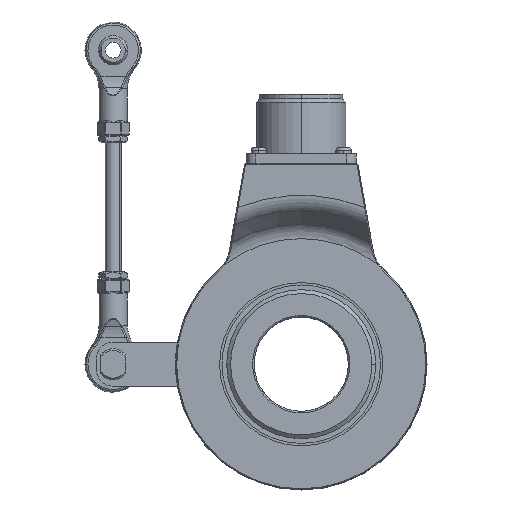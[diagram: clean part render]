
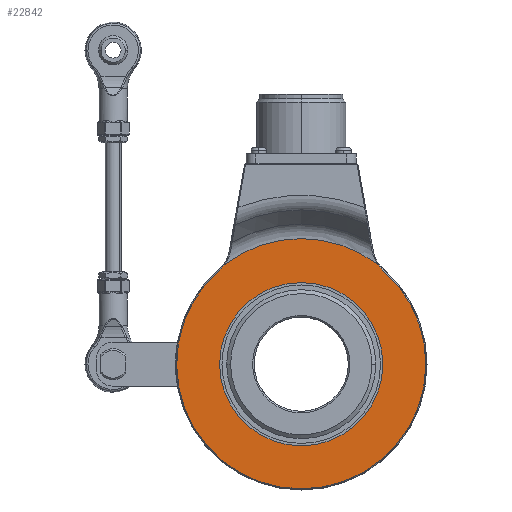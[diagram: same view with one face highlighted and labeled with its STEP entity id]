
A CAD part, left-side view. The second image highlights one B-rep face of the part: STEP entity #22842.
In plain terms, the highlighted planar face has unit normal (-1, 0, 0).
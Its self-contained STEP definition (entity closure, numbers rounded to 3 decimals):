
#265 = CARTESIAN_POINT ( 'NONE',  ( -26., 0., -26. ) ) ;
#274 = EDGE_CURVE ( 'NONE', #24904, #16589, #3939, .T. ) ;
#402 = VERTEX_POINT ( 'NONE', #5622 ) ;
#904 = ORIENTED_EDGE ( 'NONE', *, *, #274, .F. ) ;
#1744 = CIRCLE ( 'NONE', #17648, 26. ) ;
#2135 = EDGE_CURVE ( 'NONE', #28399, #22817, #19011, .T. ) ;
#2147 = PLANE ( 'NONE',  #23688 ) ;
#2227 = DIRECTION ( 'NONE',  ( -1., 0., 0. ) ) ;
#2318 = CIRCLE ( 'NONE', #8290, 40. ) ;
#2457 = CARTESIAN_POINT ( 'NONE',  ( -26., 0., 0. ) ) ;
#3420 = CARTESIAN_POINT ( 'NONE',  ( -26., 0., 0. ) ) ;
#3828 = AXIS2_PLACEMENT_3D ( 'NONE', #10108, #26817, #14627 ) ;
#3939 = CIRCLE ( 'NONE', #4492, 26. ) ;
#4319 = CARTESIAN_POINT ( 'NONE',  ( -26., -24.52, 31.603 ) ) ;
#4471 = DIRECTION ( 'NONE',  ( -1., 0., 0. ) ) ;
#4492 = AXIS2_PLACEMENT_3D ( 'NONE', #23881, #2227, #23573 ) ;
#5622 = CARTESIAN_POINT ( 'NONE',  ( -26., 26.029, 29.976 ) ) ;
#5718 = EDGE_CURVE ( 'NONE', #22817, #18317, #2318, .T. ) ;
#6664 = FACE_OUTER_BOUND ( 'NONE', #22212, .T. ) ;
#7778 = AXIS2_PLACEMENT_3D ( 'NONE', #19522, #24519, #15576 ) ;
#8290 = AXIS2_PLACEMENT_3D ( 'NONE', #3420, #29608, #15399 ) ;
#8430 = ORIENTED_EDGE ( 'NONE', *, *, #2135, .T. ) ;
#10108 = CARTESIAN_POINT ( 'NONE',  ( -26., 0., 0. ) ) ;
#10527 = ORIENTED_EDGE ( 'NONE', *, *, #22496, .T. ) ;
#10748 = DIRECTION ( 'NONE',  ( 0., 0., -1. ) ) ;
#12361 = DIRECTION ( 'NONE',  ( 1., 0., 0. ) ) ;
#14152 = CARTESIAN_POINT ( 'NONE',  ( -26., 24.52, 31.603 ) ) ;
#14627 = DIRECTION ( 'NONE',  ( 0., 0., -1. ) ) ;
#15256 = CIRCLE ( 'NONE', #3828, 39.7 ) ;
#15399 = DIRECTION ( 'NONE',  ( 0., 0., -1. ) ) ;
#15576 = DIRECTION ( 'NONE',  ( 0., 0., -1. ) ) ;
#16589 = VERTEX_POINT ( 'NONE', #27788 ) ;
#17648 = AXIS2_PLACEMENT_3D ( 'NONE', #30075, #17893, #10748 ) ;
#17893 = DIRECTION ( 'NONE',  ( -1., 0., 0. ) ) ;
#18317 = VERTEX_POINT ( 'NONE', #14152 ) ;
#18963 = EDGE_CURVE ( 'NONE', #16589, #24904, #1744, .T. ) ;
#19011 = CIRCLE ( 'NONE', #20016, 10.3 ) ;
#19522 = CARTESIAN_POINT ( 'NONE',  ( -26., 32.782, 37.753 ) ) ;
#19780 = ORIENTED_EDGE ( 'NONE', *, *, #5718, .T. ) ;
#20016 = AXIS2_PLACEMENT_3D ( 'NONE', #21689, #12361, #29218 ) ;
#20058 = EDGE_CURVE ( 'NONE', #18317, #402, #24193, .T. ) ;
#21436 = FACE_BOUND ( 'NONE', #27051, .T. ) ;
#21689 = CARTESIAN_POINT ( 'NONE',  ( -26., -32.782, 37.753 ) ) ;
#22212 = EDGE_LOOP ( 'NONE', ( #10527, #8430, #19780, #26210 ) ) ;
#22496 = EDGE_CURVE ( 'NONE', #402, #28399, #15256, .T. ) ;
#22817 = VERTEX_POINT ( 'NONE', #4319 ) ;
#22842 = ADVANCED_FACE ( 'NONE', ( #21436, #6664 ), #2147, .T. ) ;
#23573 = DIRECTION ( 'NONE',  ( 0., 0., -1. ) ) ;
#23688 = AXIS2_PLACEMENT_3D ( 'NONE', #2457, #4471, #28033 ) ;
#23881 = CARTESIAN_POINT ( 'NONE',  ( -26., 0., 0. ) ) ;
#24193 = CIRCLE ( 'NONE', #7778, 10.3 ) ;
#24519 = DIRECTION ( 'NONE',  ( 1., 0., 0. ) ) ;
#24904 = VERTEX_POINT ( 'NONE', #265 ) ;
#25514 = CARTESIAN_POINT ( 'NONE',  ( -26., -26.029, 29.976 ) ) ;
#26210 = ORIENTED_EDGE ( 'NONE', *, *, #20058, .T. ) ;
#26817 = DIRECTION ( 'NONE',  ( -1., 0., 0. ) ) ;
#27051 = EDGE_LOOP ( 'NONE', ( #904, #28938 ) ) ;
#27788 = CARTESIAN_POINT ( 'NONE',  ( -26., 0., 26. ) ) ;
#28033 = DIRECTION ( 'NONE',  ( 0., 0., -1. ) ) ;
#28399 = VERTEX_POINT ( 'NONE', #25514 ) ;
#28938 = ORIENTED_EDGE ( 'NONE', *, *, #18963, .F. ) ;
#29218 = DIRECTION ( 'NONE',  ( 0., 0., -1. ) ) ;
#29608 = DIRECTION ( 'NONE',  ( -1., 0., 0. ) ) ;
#30075 = CARTESIAN_POINT ( 'NONE',  ( -26., 0., 0. ) ) ;
